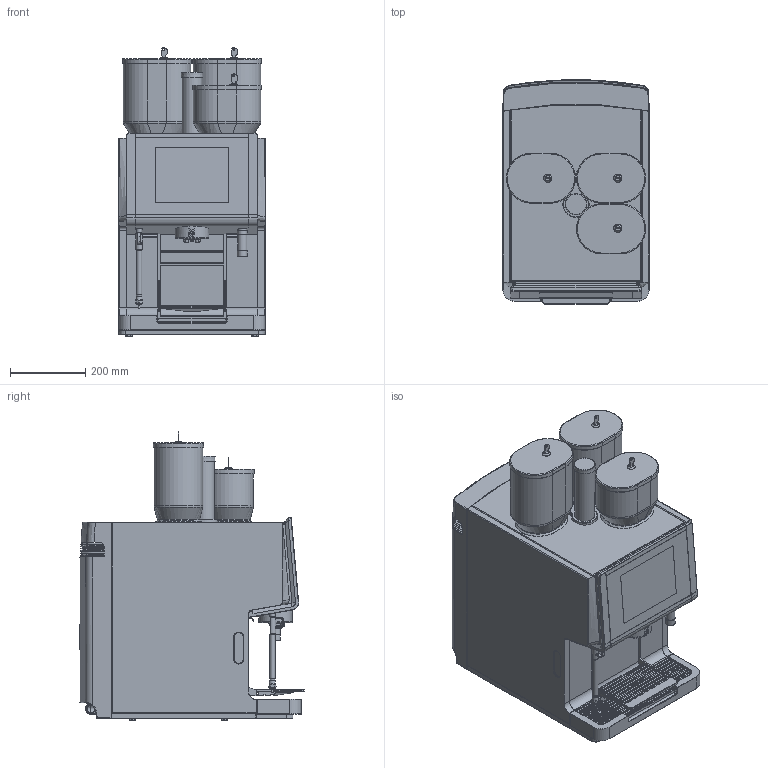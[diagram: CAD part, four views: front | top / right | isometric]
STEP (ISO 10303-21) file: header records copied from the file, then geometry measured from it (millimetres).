
FILE_DESCRIPTION(/* description */ (''),/* implementation_level */ '2;1');
FILE_NAME(/* name */ 'D:\Projekte\WMF\am\9000S\am\9000S_3D.stp',/* time_stamp */ '2017-05-27T06:57:39+02:00',/* author */ ('AM'),/* organization */ (''),/* preprocessor_version */ 'ST-DEVELOPER v16.1',/* originating_system */ 'Autodesk Inventor 2016',/* authorisation */ '');
FILE_SCHEMA (('AUTOMOTIVE_DESIGN { 1 0 10303 214 3 1 1 }'));
Products named in the file (1): 9000S_3D_20170525
Bounding box: 390 x 598.21 x 769.42 mm (x, y, z)
Volume: 107655668.9 mm3; surface area: 2543721.1 mm2
Topology: 4 solids, 5 shells, 2754 faces, 7199 edges, 4473 vertices
Faces by surface type: plane 1020, cylinder 786, bspline 481, torus 249, cone 172, sphere 46
Full cylindrical faces by diameter (mm): 1.6 x4, 3 x99, 4 x1, 4.15 x2, 5 x3, 5.1 x1, 6 x2, 6.2 x1, 6.5 x2, 9 x3, 10 x5, 12 x1, 14 x3, 14.1 x1, 15 x1, 16 x1, 17 x4, 18.8 x1, 20 x2, 22 x5, 23 x2, 23.2 x1, 25 x2, 26 x2, 28.8 x1, 29 x2, 39 x1, 53 x1, 89.5 x1, 90 x1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
Entity records: 99882 total; most frequent: CARTESIAN_POINT 36934, ORIENTED_EDGE 13208, DIRECTION 12433, EDGE_CURVE 6602, AXIS2_PLACEMENT_3D 4773, VERTEX_POINT 4243, EDGE_LOOP 3379, LINE 2887
